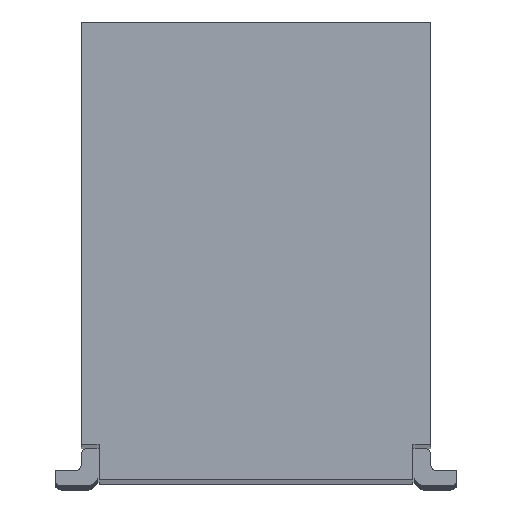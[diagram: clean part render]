
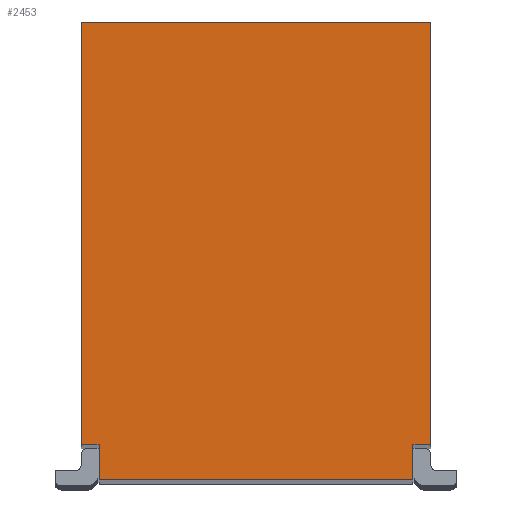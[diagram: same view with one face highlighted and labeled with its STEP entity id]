
A CAD part, top view. The second image highlights one B-rep face of the part: STEP entity #2453.
In plain terms, the highlighted planar face has unit normal (0, 0, 1).
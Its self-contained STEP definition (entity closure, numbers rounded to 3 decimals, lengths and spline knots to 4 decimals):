
#818=PLANE('',#40424);
#2453=ADVANCED_FACE('',(#5258),#818,.T.);
#5258=FACE_OUTER_BOUND('',#7452,.T.);
#7452=EDGE_LOOP('',(#14297,#14298,#14299,#14300,#14301,#14302,#14303,#14304));
#14297=ORIENTED_EDGE('',*,*,#26688,.T.);
#14298=ORIENTED_EDGE('',*,*,#26695,.T.);
#14299=ORIENTED_EDGE('',*,*,#27557,.F.);
#14300=ORIENTED_EDGE('',*,*,#27558,.T.);
#14301=ORIENTED_EDGE('',*,*,#27559,.T.);
#14302=ORIENTED_EDGE('',*,*,#27560,.T.);
#14303=ORIENTED_EDGE('',*,*,#27561,.F.);
#14304=ORIENTED_EDGE('',*,*,#26573,.T.);
#22432=VERTEX_POINT('',#56345);
#22435=VERTEX_POINT('',#56350);
#22549=VERTEX_POINT('',#56580);
#22555=VERTEX_POINT('',#56594);
#23180=VERTEX_POINT('',#58396);
#23181=VERTEX_POINT('',#58400);
#23182=VERTEX_POINT('',#58402);
#23183=VERTEX_POINT('',#58404);
#26573=EDGE_CURVE('',#22432,#22435,#31876,.T.);
#26688=EDGE_CURVE('',#22435,#22549,#31991,.T.);
#26695=EDGE_CURVE('',#22549,#22555,#31998,.T.);
#27557=EDGE_CURVE('',#23180,#22555,#32620,.T.);
#27558=EDGE_CURVE('',#23180,#23181,#32621,.T.);
#27559=EDGE_CURVE('',#23181,#23182,#32622,.T.);
#27560=EDGE_CURVE('',#23182,#23183,#32623,.T.);
#27561=EDGE_CURVE('',#22432,#23183,#32624,.T.);
#31876=LINE('',#56351,#35959);
#31991=LINE('',#56581,#36074);
#31998=LINE('',#56595,#36081);
#32620=LINE('',#58397,#36703);
#32621=LINE('',#58399,#36704);
#32622=LINE('',#58401,#36705);
#32623=LINE('',#58403,#36706);
#32624=LINE('',#58405,#36707);
#35959=VECTOR('',#45071,1.);
#36074=VECTOR('',#45188,1.);
#36081=VECTOR('',#45197,1.);
#36703=VECTOR('',#46801,1.);
#36704=VECTOR('',#46804,1.);
#36705=VECTOR('',#46805,1.);
#36706=VECTOR('',#46806,1.);
#36707=VECTOR('',#46807,1.);
#40424=AXIS2_PLACEMENT_3D('',#58406,#46808,#46809);
#45071=DIRECTION('',(0.,1.,0.));
#45188=DIRECTION('',(1.,0.,0.));
#45197=DIRECTION('',(0.,1.,0.));
#46801=DIRECTION('',(1.,0.,0.));
#46804=DIRECTION('',(0.,-1.,0.));
#46805=DIRECTION('',(1.,0.,0.));
#46806=DIRECTION('',(0.,-1.,0.));
#46807=DIRECTION('',(-1.,0.,0.));
#46808=DIRECTION('',(0.,0.,1.));
#46809=DIRECTION('',(-1.,0.,0.));
#56345=CARTESIAN_POINT('',(1.32,-7.95,4.785));
#56350=CARTESIAN_POINT('',(1.32,-7.65,4.785));
#56351=CARTESIAN_POINT('',(1.32,-6.,4.785));
#56580=CARTESIAN_POINT('',(1.47,-7.65,4.785));
#56581=CARTESIAN_POINT('',(0.,-7.65,4.785));
#56594=CARTESIAN_POINT('',(1.47,-4.1,4.785));
#56595=CARTESIAN_POINT('',(1.47,-6.,4.785));
#58396=CARTESIAN_POINT('',(-1.47,-4.1,4.785));
#58397=CARTESIAN_POINT('',(0.,-4.1,4.785));
#58399=CARTESIAN_POINT('',(-1.47,-6.,4.785));
#58400=CARTESIAN_POINT('',(-1.47,-7.65,4.785));
#58401=CARTESIAN_POINT('',(0.,-7.65,4.785));
#58402=CARTESIAN_POINT('',(-1.32,-7.65,4.785));
#58403=CARTESIAN_POINT('',(-1.32,-6.,4.785));
#58404=CARTESIAN_POINT('',(-1.32,-7.95,4.785));
#58405=CARTESIAN_POINT('',(0.,-7.95,4.785));
#58406=CARTESIAN_POINT('',(1.5435,-4.0037,4.785));
